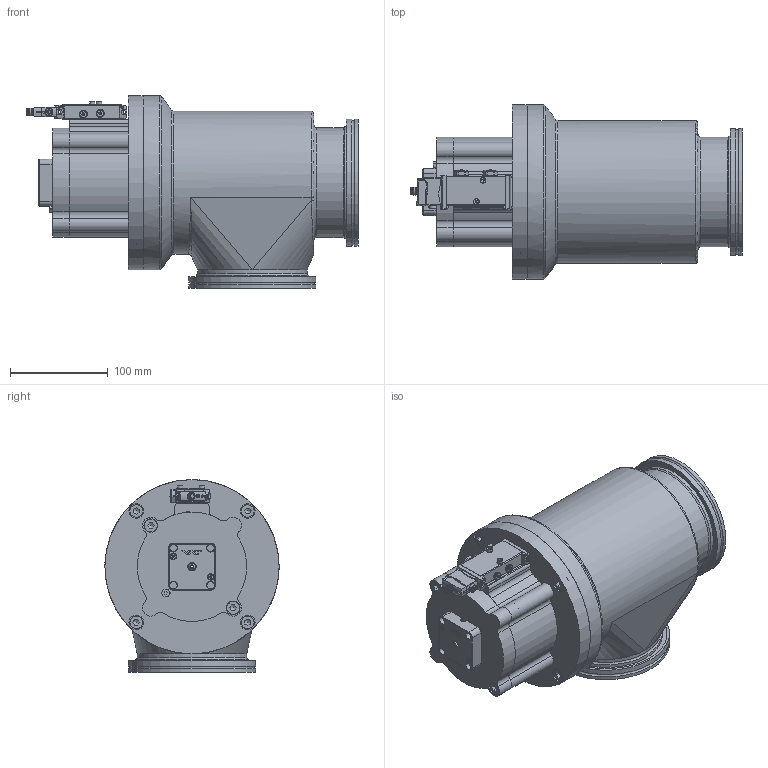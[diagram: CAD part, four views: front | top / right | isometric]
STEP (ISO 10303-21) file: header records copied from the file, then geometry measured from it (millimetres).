
FILE_DESCRIPTION(/* description */ (''),/* implementation_level */ '2;1');
FILE_NAME(/* name */ '1724687865_203.stp',/* time_stamp */ '2014-08-27T08:29:32+02:00',/* author */ (''),/* organization */ (''),/* preprocessor_version */ 'ST-DEVELOPER v11',/* originating_system */ 'SIEMENS PLM Software NX 7.5',/* authorisation */ '');
FILE_SCHEMA (('AP203_CONFIGURATION_CONTROLLED_3D_DESIGN_OF_MECHANICAL_PARTS_AND_ASSEMBLIES_MIM_LF'));
Length unit declared in the file: millimetre
Products named in the file (21): 233359; 236204_1.1; 366217; n-6134-404.1; n-6005-429.1; 571495; 538796; 518957_18325ID; n-6121-026.2; 517625_18334ID; 224847.1; 543750; n-7636-200.2; 542372; 228777; 476060; 239983.3; 572183_MODEL; 518946_MODEL; 561077_MODEL; 705540
Assembly tree (30 placements, depth 3):
  705540
    476060
    228777  x4
    542372
    561077_MODEL
      517625_18334ID
      n-6121-026.2  x2
    n-7636-200.2
    518946_MODEL
      518957_18325ID
    543750
    572183_MODEL
      538796
      571495  x2
      n-6005-429.1  x2
      n-6134-404.1  x2
      366217  x2
    239983.3
      236204_1.1  x2
      233359
    224847.1  x2
Bounding box: 339.25 x 178 x 197 mm (x, y, z)
Volume: 1864508.2 mm3; surface area: 469814.7 mm2
Topology: 47 solids, 49 shells, 1593 faces, 3901 edges, 2510 vertices
Faces by surface type: plane 853, cylinder 454, cone 161, torus 62, bspline 36, extrusion 19, sphere 8
Full cylindrical faces by diameter (mm): 1 x3, 2.46 x2, 2.5 x7, 2.6 x2, 3 x11, 3.2 x4, 3.8 x1, 3.85 x2, 4 x1, 4.2 x2, 4.5 x1, 5 x1, 5.5 x2, 5.6 x3, 5.8 x1, 6 x4, 6.2 x2, 6.5 x2, 6.66 x6, 6.7 x6, 6.8 x8, 6.9 x1, 7.2 x1, 7.4 x3, 8 x16, 8.1 x1, 8.15 x2, 8.3 x6, 8.4 x1, 8.566 x5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
Entity records: 51970 total; most frequent: CARTESIAN_POINT 11706, DIRECTION 6879, ORIENTED_EDGE 6444, EDGE_CURVE 3222, AXIS2_PLACEMENT_3D 2587, VERTEX_POINT 2221, EDGE_LOOP 1869, VECTOR 1705
